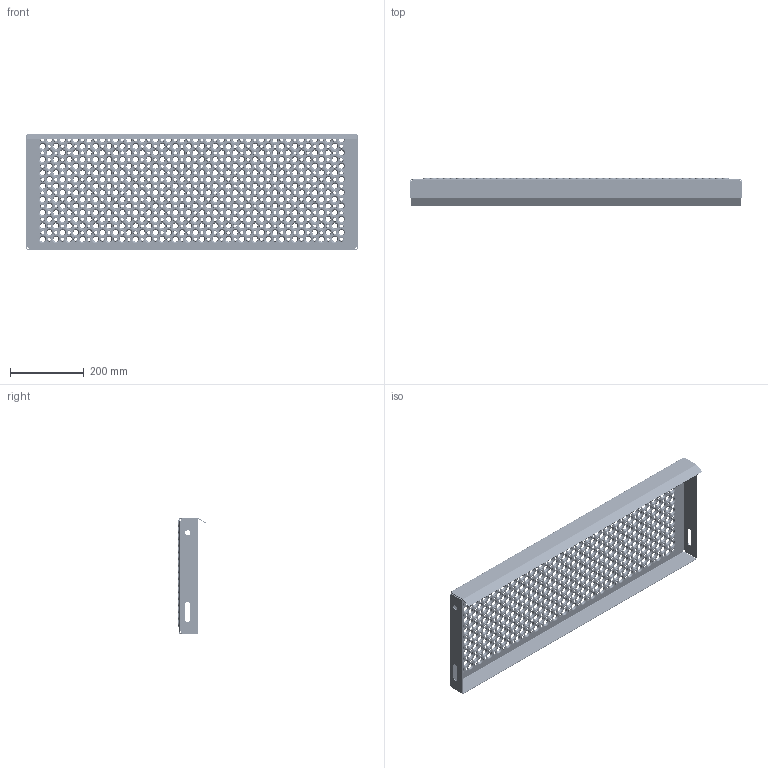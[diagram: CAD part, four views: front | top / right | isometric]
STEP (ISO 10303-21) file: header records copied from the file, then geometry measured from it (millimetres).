
FILE_DESCRIPTION (( 'STEP AP203' ), '1' );
FILE_NAME ('80243109G_Lejdertrin_315x900x45_mm_.STEP', '2015-06-09T06:09:58', ( '' ), ( '' ), 'SwSTEP 2.0', 'SolidWorks 2013', '' );
FILE_SCHEMA (( 'CONFIG_CONTROL_DESIGN' ));
Products named in the file (1): 80243109G_Lejdertrin_315x900x45_mm_
Bounding box: 900 x 75.67 x 315 mm (x, y, z)
Volume: 780543.2 mm3; surface area: 840338.2 mm2
Topology: 1 solids, 1 shells, 3756 faces, 10486 edges, 6732 vertices
Faces by surface type: cone 2208, torus 1472, cylinder 36, plane 32, bspline 8
Full cylindrical faces by diameter (mm): 14 x2
Entity records: 86561 total; most frequent: DIRECTION 16534, CARTESIAN_POINT 13377, ORIENTED_EDGE 9192, EDGE_LOOP 8918, AXIS2_PLACEMENT_3D 8221, FACE_OUTER_BOUND 5230, EDGE_CURVE 4596, VERTEX_POINT 4524
